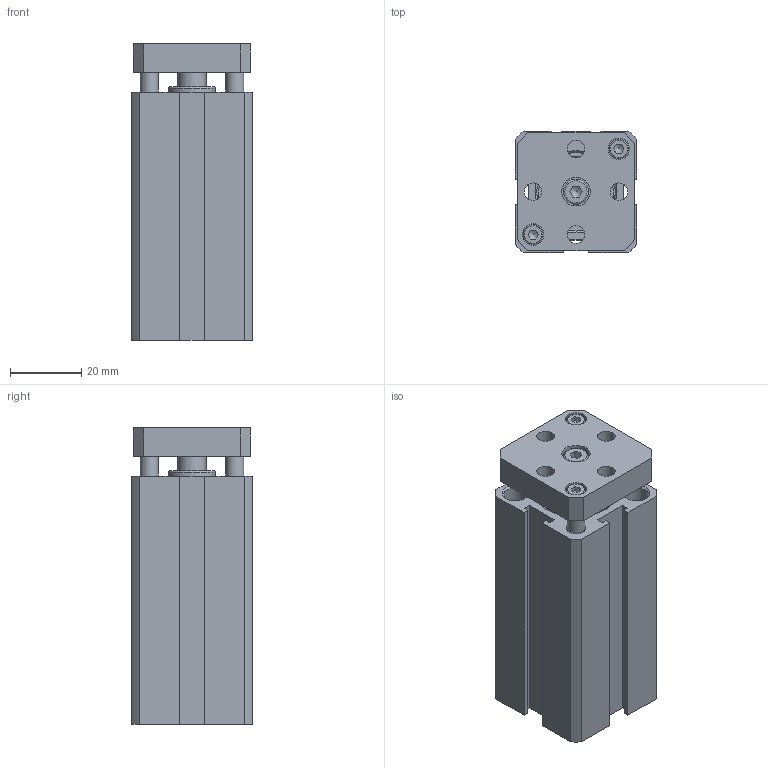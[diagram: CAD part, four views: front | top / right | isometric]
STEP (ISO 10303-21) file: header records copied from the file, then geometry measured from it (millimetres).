
FILE_DESCRIPTION((''),'2;1');
FILE_NAME('I:\3D電子目錄\氣缸\JTD\JTD\JTD20\JTD20x50.stp','2007-08-09T19:40:02',('Administrator'),(''),'Autodesk Inventor 11','Autodesk Inventor 11','');
FILE_SCHEMA(('AUTOMOTIVE_DESIGN { 1 0 10303 214 1 1 1 1 }'));
Length unit declared in the file: millimetre
Products named in the file (5): JTD20; R 形環 23; ISO 4762 M4 x 10; ISO 4762 M3 x 8
Assembly tree (6 placements, depth 2):
  JTD20
    JTD20
    R 形環 23  x2
    ISO 4762 M4 x 10
    ISO 4762 M3 x 8  x2
Bounding box: 34 x 34 x 83 mm (x, y, z)
Volume: 71964.3 mm3; surface area: 25992 mm2
Topology: 6 solids, 6 shells, 185 faces, 420 edges, 275 vertices
Faces by surface type: plane 99, cylinder 51, bspline 16, cone 14, torus 5
Full cylindrical faces by diameter (mm): 1.5 x6, 3 x2, 4 x1, 4.3 x2, 4.576 x2, 5 x2, 5.5 x4, 6.5 x4, 7 x1, 8 x1, 13 x2, 22 x4, 23.2 x2
Entity records: 4480 total; most frequent: CARTESIAN_POINT 974, DIRECTION 708, ORIENTED_EDGE 592, EDGE_CURVE 296, AXIS2_PLACEMENT_3D 270, EDGE_LOOP 262, VERTEX_POINT 228, VECTOR 168
